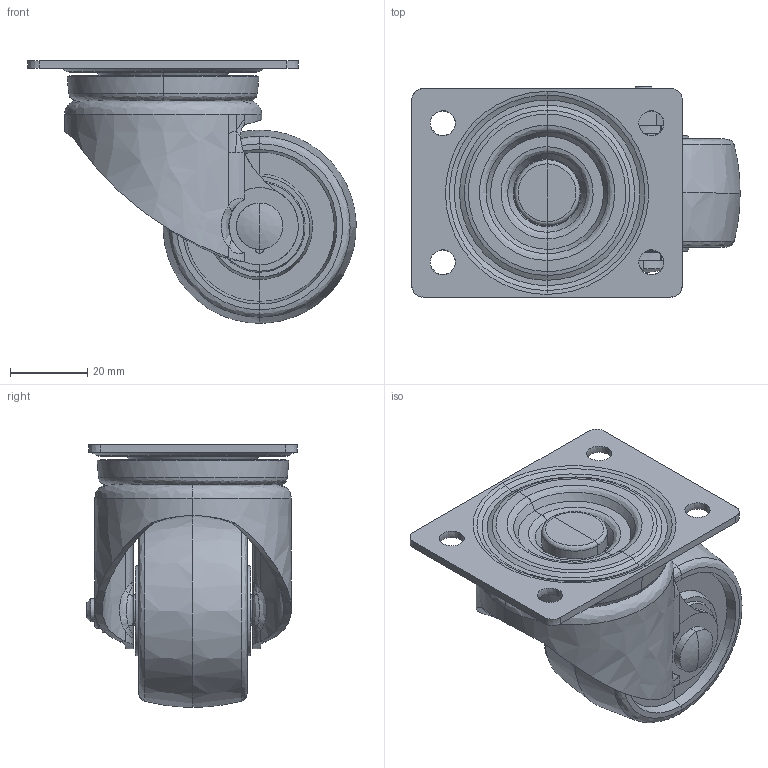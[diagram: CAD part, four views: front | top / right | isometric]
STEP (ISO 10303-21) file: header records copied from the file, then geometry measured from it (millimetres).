
FILE_DESCRIPTION (( 'STEP AP214' ), '1' );
FILE_NAME ('FP50GNWJ.STEP', '2023-10-25T12:28:10', ( 'sakai' ), ( 'Hewlett-Packard' ), 'SwSTEP 2.0', 'SolidWorks 2010', '' );
FILE_SCHEMA (( 'AUTOMOTIVE_DESIGN' ));
Length unit declared in the file: millimetre
Products named in the file (9): FP50GNWJ-10; FP50GNWJ-11; FP50GNWJ-12; FP50GNWJ-13; FP50GNWJ-14; FP50GNWJ-15; FP50GNWJ-16; FP50GNWJ-17; FP50GNWJ
Assembly tree (8 placements, depth 2):
  FP50GNWJ
    FP50GNWJ-15
    FP50GNWJ-14
    FP50GNWJ-10
    FP50GNWJ-11
    FP50GNWJ-12
    FP50GNWJ-13
    FP50GNWJ-17
    FP50GNWJ-16
Bounding box: 84.98 x 54.5 x 68 mm (x, y, z)
Volume: 77138.3 mm3; surface area: 42338.1 mm2
Topology: 9 solids, 9 shells, 378 faces, 855 edges, 469 vertices
Faces by surface type: bspline 331, plane 47
Entity records: 60808 total; most frequent: CARTESIAN_POINT 54015, ORIENTED_EDGE 1676, EDGE_CURVE 838, B_SPLINE_CURVE_WITH_KNOTS 737, VERTEX_POINT 469, EDGE_LOOP 395, FACE_OUTER_BOUND 378, ADVANCED_FACE 378
